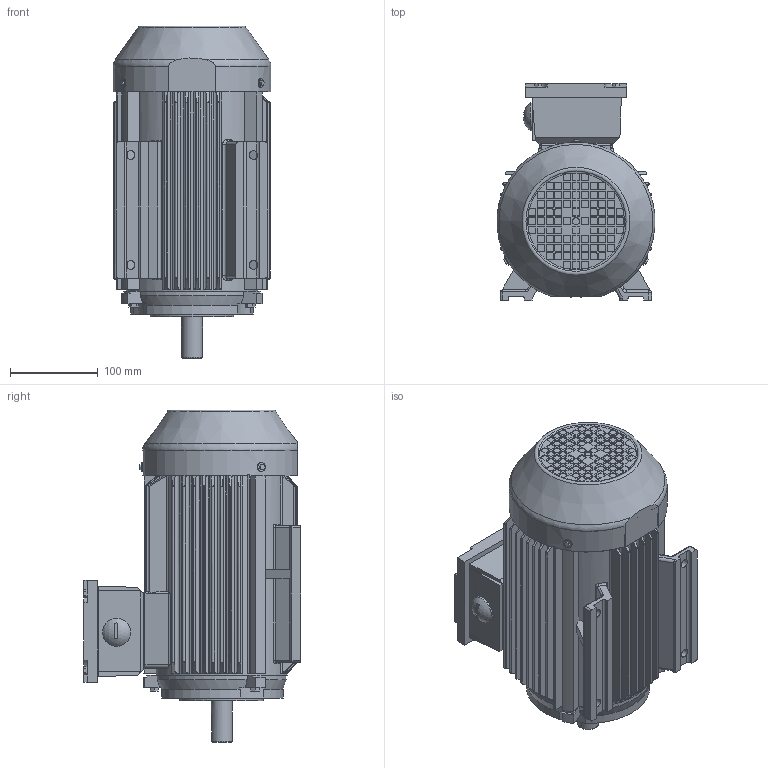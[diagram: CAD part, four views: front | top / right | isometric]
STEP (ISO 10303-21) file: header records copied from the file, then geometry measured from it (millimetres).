
FILE_DESCRIPTION(/* description */ (''),/* implementation_level */ '2;1');
FILE_NAME(/* name */ 'C:/Users/luigi_zhang/Desktop/temp/New folder/TE3-90Lú¿GXú⌐B34╔╧.step',/* time_stamp */ '2020-06-22T09:02:13+10:00',/* author */ (''),/* organization */ (''),/* preprocessor_version */ 'ST-DEVELOPER v18.1',/* originating_system */ 'Autodesk Translation Framework v9.3.0.1241',/* authorisation */ '');
FILE_SCHEMA (('AUTOMOTIVE_DESIGN { 1 0 10303 214 3 1 1 }'));
Length unit declared in the file: millimetre
Products named in the file (1): (Unsaved)
Bounding box: 179.69 x 247.5 x 378 mm (x, y, z)
Volume: 3467611.8 mm3; surface area: 720215.5 mm2
Topology: 6 solids, 7 shells, 1420 faces, 3727 edges, 2445 vertices
Faces by surface type: plane 760, cylinder 549, bspline 63, torus 23, cone 18, sphere 7
Full cylindrical faces by diameter (mm): 5 x2, 6.8 x5, 8 x1, 10 x10, 15 x2, 22.2 x1, 22.44 x1, 23.488 x1, 24 x1, 24.2 x1, 25 x2, 27.05 x1, 30 x2, 30.44 x2, 32 x1, 40 x2, 45 x2, 87 x1, 95 x1, 97.29 x1, 138 x1, 150 x1
Entity records: 49951 total; most frequent: CARTESIAN_POINT 14729, ORIENTED_EDGE 7430, DIRECTION 7167, EDGE_CURVE 3715, VERTEX_POINT 2445, AXIS2_PLACEMENT_3D 2428, LINE 2311, VECTOR 2311
